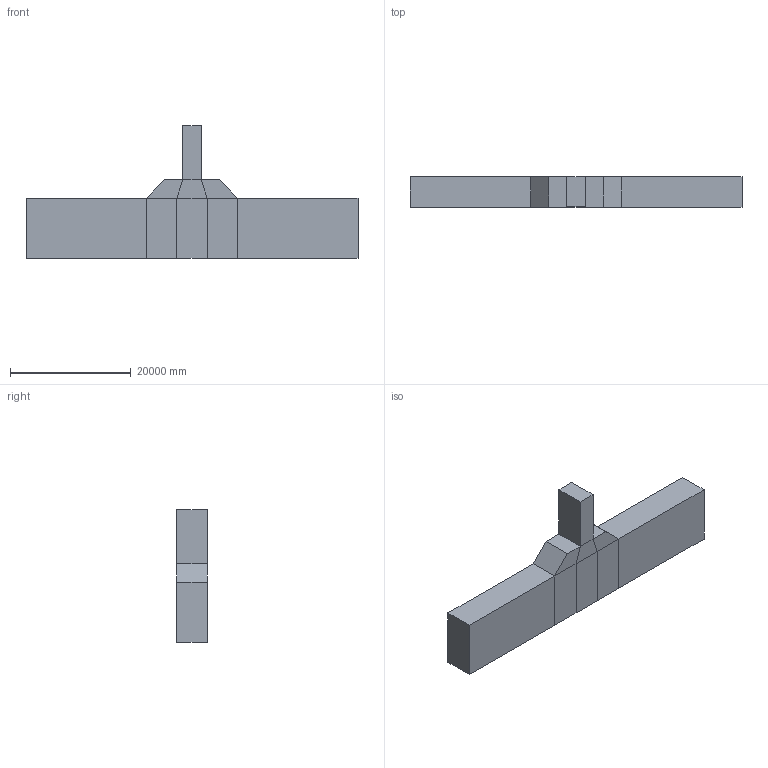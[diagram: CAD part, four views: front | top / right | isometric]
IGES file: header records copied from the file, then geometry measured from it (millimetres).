
Start section: 21HTranslator GiD - IGES
Global section: file name: C:/Users/Dell/Desktop/Interstifial Flow/Slope_Surf.igs; native system: GiD; preprocessor: 12.0.1; organization: CIMNE - International Center for Numerical Methods in Engineering; date: 220121.204658; units: metre
Bounding box: 55000 x 5000 x 22000 mm (x, y, z)
Surface area: 1978426408 mm2 (no closed solid volume)
Topology: 0 solids, 0 shells, 34 faces, 136 edges, 136 vertices
Faces by surface type: bspline 34
